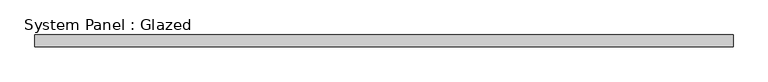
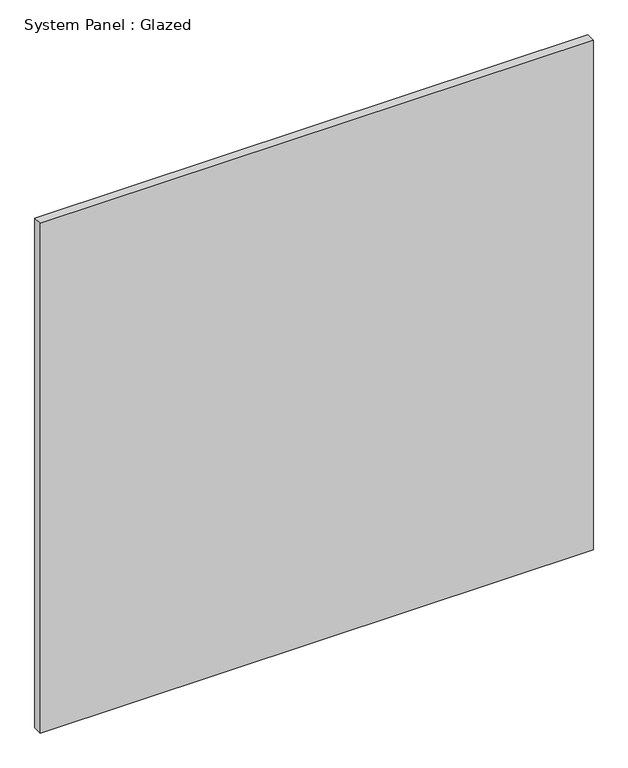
"""IFC4 building model written with IfcOpenShell, lengths in millimetres: plate geometry, System Panel : Glazed."""

import ifcopenshell
import ifcopenshell.guid

model = None  # the IFC model being written
_history = None  # IfcOwnerHistory: only IFC2X3 demands one
_inside = {}  # id of a spatial element -> (the spatial element, [elements in it])
_under = {}  # id of a project, library or spatial element -> (it, [spatial elements below it])
_declared = {}  # id of a project -> (the project, [libraries it declares])
_typed = {}  # id of a type object -> (the type object, [elements of that type])
_made_of = {}  # id of a material, layer set ... -> (it, [elements and type objects made of it])


def new_model(schema):
    """Start an empty IFC model of exactly this schema.

    Asked for "IFC4X3", IfcOpenShell would pick the latest addendum, in which some entities
    have other attributes; the version numbers below select the first issue.
    IFC2X3 requires an IfcOwnerHistory on every rooted entity: one is made here for all.
    """
    global model, _history
    if schema == "IFC4X3":
        model = ifcopenshell.file(schema_version=(4, 3, 0, 0))
    else:
        model = ifcopenshell.file(schema=schema)
    _inside.clear()
    _under.clear()
    _declared.clear()
    _typed.clear()
    _made_of.clear()
    _history = None
    if model.schema == "IFC2X3":
        org = make("IfcOrganization", Name="unknown")
        user = make(
            "IfcPersonAndOrganization",
            ThePerson=make("IfcPerson", FamilyName="unknown"),
            TheOrganization=org,
        )
        app = make(
            "IfcApplication",
            ApplicationDeveloper=org,
            Version="unknown",
            ApplicationFullName="unknown",
            ApplicationIdentifier="unknown",
        )
        _history = make(
            "IfcOwnerHistory",
            OwningUser=user,
            OwningApplication=app,
            ChangeAction="ADDED",
            CreationDate=0,
        )
    return model


def make(cls, **values):
    """One entity of the class cls with the attributes given. An attribute that is None is left unset."""
    return model.create_entity(
        cls, **{name: value for name, value in values.items() if value is not None}
    )


def rooted(cls, **values):
    """An entity with a GlobalId (a new one), such as an element, a storey or a relation."""
    return make(cls, GlobalId=ifcopenshell.guid.new(), OwnerHistory=_history, **values)


def si_unit(unit_type, name, prefix=None):
    """IfcSIUnit, for example si_unit("LENGTHUNIT", "METRE", prefix="MILLI")."""
    return make("IfcSIUnit", UnitType=unit_type, Prefix=prefix, Name=name)


def assignment(units):
    """IfcUnitAssignment: the units of a project."""
    return None if units is None else make("IfcUnitAssignment", Units=units)


def point(xyz):
    """IfcCartesianPoint."""
    return None if xyz is None else make("IfcCartesianPoint", Coordinates=xyz)


def direction(xyz):
    """IfcDirection."""
    return None if xyz is None else make("IfcDirection", DirectionRatios=xyz)


def frame(location, z_axis=None, x_axis=None):
    """IfcAxis2Placement3D, a coordinate frame: its origin and axes. An axis left out is left unset."""
    return make(
        "IfcAxis2Placement3D",
        Location=point(location),
        Axis=direction(z_axis),
        RefDirection=direction(x_axis),
    )


def origin():
    """The frame at (0, 0, 0) with its axes left unset."""
    return frame((0.0, 0.0, 0.0))


def origin_with_axes():
    """The frame at (0, 0, 0) with the z axis (0, 0, 1) and the x axis (1, 0, 0) written out."""
    return frame((0.0, 0.0, 0.0), z_axis=(0.0, 0.0, 1.0), x_axis=(1.0, 0.0, 0.0))


def place(relative_to, where):
    """IfcLocalPlacement: puts the frame where relative to a parent placement (None: the world)."""
    return make(
        "IfcLocalPlacement", PlacementRelTo=relative_to, RelativePlacement=where
    )


def context(
    kind, dimensions, precision=None, world=None, true_north=None, identifier=None
):
    """IfcGeometricRepresentationContext, for example the 3D "Model" context."""
    return make(
        "IfcGeometricRepresentationContext",
        ContextIdentifier=identifier,
        ContextType=kind,
        CoordinateSpaceDimension=dimensions,
        Precision=precision,
        WorldCoordinateSystem=world,
        TrueNorth=true_north,
    )


def project(units=None, contexts=None):
    """IfcProject with its units and contexts."""
    return rooted(
        "IfcProject",
        Name="project",
        RepresentationContexts=contexts,
        UnitsInContext=assignment(units),
    )


def spatial(cls, under=None, at=None, **own):
    """A site, building, storey or space (cls), placed at a placement, below another one or the project."""
    s = rooted(cls, ObjectPlacement=at, **own)
    if under is not None:
        _under.setdefault(under.id(), (under, []))[1].append(s)
    return s


def polyline(points):
    """IfcPolyline through the points."""
    return make("IfcPolyline", Points=[point(p) for p in points])


def outline(outer, holes=None, kind="AREA"):
    """IfcArbitraryClosedProfileDef: a profile drawn as a closed curve; with holes, ...WithVoids."""
    if holes is None:
        return make("IfcArbitraryClosedProfileDef", ProfileType=kind, OuterCurve=outer)
    return make(
        "IfcArbitraryProfileDefWithVoids",
        ProfileType=kind,
        OuterCurve=outer,
        InnerCurves=holes,
    )


def extrude(swept, where, along, depth):
    """IfcExtrudedAreaSolid: the profile swept, set in the frame where, extruded along a direction by depth."""
    return make(
        "IfcExtrudedAreaSolid",
        SweptArea=swept,
        Position=where,
        ExtrudedDirection=direction(along),
        Depth=depth,
    )


def shape(context_of_items, identifier, shape_type, items):
    """IfcShapeRepresentation: the items that make up one representation, for example the "Body"."""
    return make(
        "IfcShapeRepresentation",
        ContextOfItems=context_of_items,
        RepresentationIdentifier=identifier,
        RepresentationType=shape_type,
        Items=items,
    )


def source(mapping_origin, context_of_items, identifier, shape_type, items):
    """IfcRepresentationMap: a shape defined once, which mapped items show again and again."""
    return make(
        "IfcRepresentationMap",
        MappingOrigin=mapping_origin,
        MappedRepresentation=shape(context_of_items, identifier, shape_type, items),
    )


def transform(
    local_origin,
    x_axis=None,
    y_axis=None,
    z_axis=None,
    scale=None,
    scale2=None,
    scale3=None,
    uniform=True,
):
    """IfcCartesianTransformationOperator3D, or its non-uniform kind. x_axis, y_axis, z_axis: its Axis1, 2, 3."""
    if uniform:
        return make(
            "IfcCartesianTransformationOperator3D",
            Axis1=direction(x_axis),
            Axis2=direction(y_axis),
            LocalOrigin=point(local_origin),
            Scale=scale,
            Axis3=direction(z_axis),
        )
    return make(
        "IfcCartesianTransformationOperator3DnonUniform",
        Axis1=direction(x_axis),
        Axis2=direction(y_axis),
        LocalOrigin=point(local_origin),
        Scale=scale,
        Axis3=direction(z_axis),
        Scale2=scale2,
        Scale3=scale3,
    )


def mapped(mapping_source, mapping_target):
    """IfcMappedItem: shows the shape of a source again, moved by a transform."""
    return make(
        "IfcMappedItem", MappingSource=mapping_source, MappingTarget=mapping_target
    )


def made_of(thing, what):
    """Note that an element or type object is made of a material, layer set ...; save() writes the relation."""
    if what is not None:
        _made_of.setdefault(what.id(), (what, []))[1].append(thing)
    return thing


def element(
    cls,
    number,
    at=None,
    inside=None,
    cuts=None,
    type_object=None,
    material=None,
    context=None,
    identifier="Body",
    shape_type=None,
    held_by="IfcProductDefinitionShape",
    body=None,
    shapes=None,
    **own,
):
    """One element of the class cls, such as IfcWall. Its Tag is "e" and its number.

    at: its placement. inside: the storey or other place that contains it. cuts: it is an
    opening in that element (IfcRelVoidsElement). A single representation is given by context,
    identifier, shape_type and body (its items); several are given by shapes. held_by: the class
    of the entity that holds the representations. save() writes the other relations.
    """
    e = rooted(cls, Tag="e%d" % number, ObjectPlacement=at, **own)
    if body is not None:
        shapes = [shape(context, identifier, shape_type, body)]
    if shapes is not None:
        e.Representation = make(held_by, Representations=shapes)
    if inside is not None:
        _inside.setdefault(inside.id(), (inside, []))[1].append(e)
    if cuts is not None:
        rooted(
            "IfcRelVoidsElement", RelatingBuildingElement=cuts, RelatedOpeningElement=e
        )
    if type_object is not None:
        _typed.setdefault(type_object.id(), (type_object, []))[1].append(e)
    return made_of(e, material)


def aggregate(whole, parts):
    """IfcRelAggregates: a whole, such as a stair, and the parts it consists of."""
    return rooted("IfcRelAggregates", RelatingObject=whole, RelatedObjects=parts)


def save(model, path):
    """Write the relations noted so far, then the file.

    IfcRelAggregates (storeys below a building ...), IfcRelContainedInSpatialStructure (elements
    in a storey), IfcRelDefinesByType, IfcRelAssociatesMaterial and IfcRelDeclares: one each for
    every whole, place, type object, material and project.
    """
    for whole, parts in _under.values():
        aggregate(whole, parts)
    for where, things in _inside.values():
        rooted(
            "IfcRelContainedInSpatialStructure",
            RelatedElements=things,
            RelatingStructure=where,
        )
    for kind, things in _typed.values():
        rooted("IfcRelDefinesByType", RelatedObjects=things, RelatingType=kind)
    for what, things in _made_of.values():
        rooted("IfcRelAssociatesMaterial", RelatedObjects=things, RelatingMaterial=what)
    for by, libraries in _declared.values():
        rooted("IfcRelDeclares", RelatingContext=by, RelatedDefinitions=libraries)
    model.write(path)


def system_panel_glazed_14338285(model_context):
    return source(origin(), model_context, "Body", "SweptSolid", [
        extrude(outline(polyline([(736.9999999, 24.5), (-736.9999999, 24.5), (-736.9999999, 49.5), (736.9999999, 49.5), (736.9999999, 24.5)])), origin_with_axes(), (0.0, 0.0, 1.0), 1435.6),
    ])


if __name__ == "__main__":
    model = new_model("IFC4")
    model_context = context("Model", 3, world=origin())
    ifc_project = project(units=[si_unit("LENGTHUNIT", "METRE", prefix="MILLI")], contexts=[model_context])
    site = spatial("IfcSite", under=ifc_project)
    building = spatial("IfcBuilding", under=site)
    placement = place(None, origin())
    system_panel_glazed_shape = system_panel_glazed_14338285(model_context)
    element("IfcPlate", 1, ObjectType="System Panel : Glazed", at=placement, inside=building, context=model_context, shape_type="MappedRepresentation", body=[
        mapped(system_panel_glazed_shape, transform((0.0, 0.0, 0.0), x_axis=(1.0, 0.0, 0.0), y_axis=(0.0, 1.0, 0.0), z_axis=(0.0, 0.0, 1.0))),
    ])
    save(model, "model.ifc")
